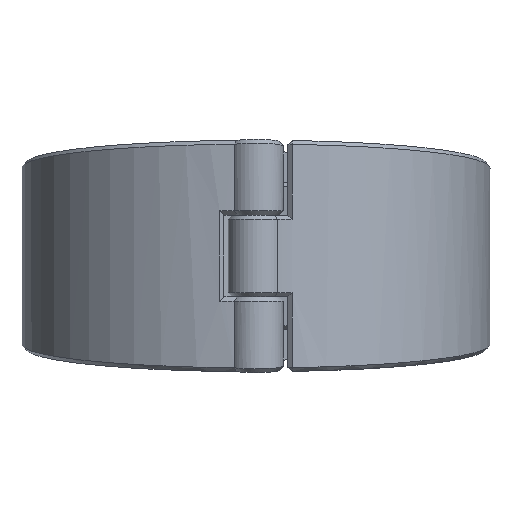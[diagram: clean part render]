
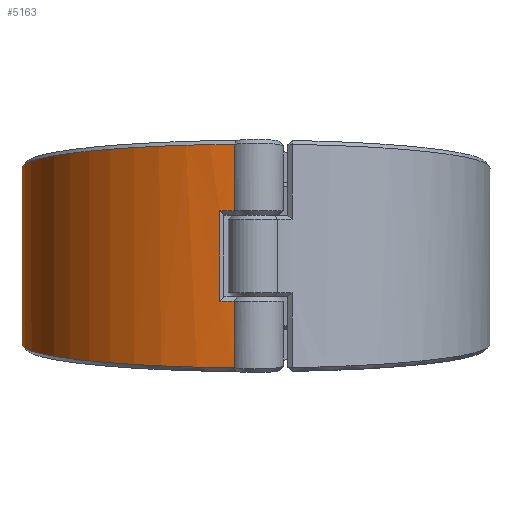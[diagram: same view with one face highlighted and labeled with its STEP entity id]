
A CAD part, front view. The second image highlights one B-rep face of the part: STEP entity #5163.
In plain terms, the highlighted cylindrical face has radius 110 mm (diameter 220 mm), a partial arc.
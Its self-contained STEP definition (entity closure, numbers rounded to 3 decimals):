
#171=CYLINDRICAL_SURFACE('',#5540,110.);
#388=FACE_OUTER_BOUND('',#730,.T.);
#730=EDGE_LOOP('',(#3521,#3522,#3523,#3524,#3525,#3526,#3527,#3528,#3529,
#3530,#3531,#3532));
#1089=B_SPLINE_CURVE_WITH_KNOTS('',3,(#7728,#7729,#7730,#7731),
 .UNSPECIFIED.,.F.,.F.,(4,4),(-0.001,0.),.UNSPECIFIED.);
#1090=B_SPLINE_CURVE_WITH_KNOTS('',3,(#7733,#7734,#7735,#7736),
 .UNSPECIFIED.,.F.,.F.,(4,4),(-3.049,-3.049),
 .UNSPECIFIED.);
#1091=B_SPLINE_CURVE_WITH_KNOTS('',3,(#7738,#7739,#7740,#7741,#7742,#7743,
#7744,#7745,#7746,#7747),.UNSPECIFIED.,.F.,.F.,(4,1,1,1,1,1,1,4),(0.317,
0.656,1.056,1.457,1.857,2.257,
2.657,3.049),.UNSPECIFIED.);
#1092=B_SPLINE_CURVE_WITH_KNOTS('',3,(#7751,#7752,#7753,#7754,#7755,#7756,
#7757,#7758,#7759,#7760),.UNSPECIFIED.,.F.,.F.,(4,1,1,1,1,1,1,4),(-3.049,
-2.657,-2.257,-1.857,-1.457,-1.056,
-0.656,-0.317),.UNSPECIFIED.);
#1093=B_SPLINE_CURVE_WITH_KNOTS('',3,(#7762,#7763,#7764,#7765),
 .UNSPECIFIED.,.F.,.F.,(4,4),(3.049,3.049),
 .UNSPECIFIED.);
#1094=B_SPLINE_CURVE_WITH_KNOTS('',3,(#7767,#7768,#7769,#7770),
 .UNSPECIFIED.,.F.,.F.,(4,4),(-0.361,-0.36),
 .UNSPECIFIED.);
#1317=LINE('',#7662,#1555);
#1323=LINE('',#7726,#1561);
#1324=LINE('',#7749,#1562);
#1325=LINE('',#7771,#1563);
#1555=VECTOR('',#6155,10.);
#1561=VECTOR('',#6201,10.);
#1562=VECTOR('',#6202,10.);
#1563=VECTOR('',#6203,10.);
#1798=CIRCLE('',#5530,110.);
#1801=CIRCLE('',#5535,110.);
#2137=VERTEX_POINT('',#7656);
#2138=VERTEX_POINT('',#7661);
#2144=VERTEX_POINT('',#7682);
#2147=VERTEX_POINT('',#7703);
#2151=VERTEX_POINT('',#7725);
#2152=VERTEX_POINT('',#7727);
#2153=VERTEX_POINT('',#7732);
#2154=VERTEX_POINT('',#7737);
#2155=VERTEX_POINT('',#7748);
#2156=VERTEX_POINT('',#7750);
#2157=VERTEX_POINT('',#7761);
#2158=VERTEX_POINT('',#7766);
#2646=EDGE_CURVE('',#2137,#2138,#1317,.T.);
#2659=EDGE_CURVE('',#2144,#2137,#1798,.T.);
#2664=EDGE_CURVE('',#2138,#2147,#1801,.T.);
#2670=EDGE_CURVE('',#2151,#2144,#1323,.T.);
#2671=EDGE_CURVE('',#2152,#2151,#1089,.T.);
#2672=EDGE_CURVE('',#2152,#2153,#1090,.T.);
#2673=EDGE_CURVE('',#2154,#2153,#1091,.T.);
#2674=EDGE_CURVE('',#2155,#2154,#1324,.T.);
#2675=EDGE_CURVE('',#2156,#2155,#1092,.T.);
#2676=EDGE_CURVE('',#2156,#2157,#1093,.T.);
#2677=EDGE_CURVE('',#2158,#2157,#1094,.T.);
#2678=EDGE_CURVE('',#2147,#2158,#1325,.T.);
#3521=ORIENTED_EDGE('',*,*,#2664,.F.);
#3522=ORIENTED_EDGE('',*,*,#2646,.F.);
#3523=ORIENTED_EDGE('',*,*,#2659,.F.);
#3524=ORIENTED_EDGE('',*,*,#2670,.F.);
#3525=ORIENTED_EDGE('',*,*,#2671,.F.);
#3526=ORIENTED_EDGE('',*,*,#2672,.T.);
#3527=ORIENTED_EDGE('',*,*,#2673,.F.);
#3528=ORIENTED_EDGE('',*,*,#2674,.F.);
#3529=ORIENTED_EDGE('',*,*,#2675,.F.);
#3530=ORIENTED_EDGE('',*,*,#2676,.T.);
#3531=ORIENTED_EDGE('',*,*,#2677,.F.);
#3532=ORIENTED_EDGE('',*,*,#2678,.F.);
#5163=ADVANCED_FACE('',(#388),#171,.T.);
#5530=AXIS2_PLACEMENT_3D('',#7698,#6177,#6178);
#5535=AXIS2_PLACEMENT_3D('',#7712,#6187,#6188);
#5540=AXIS2_PLACEMENT_3D('',#7724,#6199,#6200);
#6155=DIRECTION('',(0.,0.,-1.));
#6177=DIRECTION('center_axis',(0.,0.,-1.));
#6178=DIRECTION('ref_axis',(0.312,-0.95,0.));
#6187=DIRECTION('center_axis',(0.,0.,1.));
#6188=DIRECTION('ref_axis',(0.312,-0.95,0.));
#6199=DIRECTION('center_axis',(0.,0.,1.));
#6200=DIRECTION('ref_axis',(-0.312,0.95,0.));
#6201=DIRECTION('',(0.,0.,-1.));
#6202=DIRECTION('',(0.,0.,1.));
#6203=DIRECTION('',(0.,0.,-1.));
#7656=CARTESIAN_POINT('',(-17.029,-108.674,21.25));
#7661=CARTESIAN_POINT('',(-17.029,-108.674,-21.25));
#7662=CARTESIAN_POINT('',(-17.029,-108.674,0.));
#7682=CARTESIAN_POINT('',(-10.117,-109.534,21.25));
#7698=CARTESIAN_POINT('Origin',(0.,0.,21.25));
#7703=CARTESIAN_POINT('',(-10.117,-109.534,-21.25));
#7712=CARTESIAN_POINT('Origin',(0.,0.,-21.25));
#7724=CARTESIAN_POINT('Origin',(0.,0.,0.));
#7725=CARTESIAN_POINT('',(-10.117,-109.534,52.505));
#7726=CARTESIAN_POINT('',(-10.117,-109.534,0.));
#7727=CARTESIAN_POINT('',(-10.109,-109.535,52.511));
#7728=CARTESIAN_POINT('Ctrl Pts',(-10.109,-109.535,52.511));
#7729=CARTESIAN_POINT('Ctrl Pts',(-10.111,-109.534,52.509));
#7730=CARTESIAN_POINT('Ctrl Pts',(-10.114,-109.534,52.507));
#7731=CARTESIAN_POINT('Ctrl Pts',(-10.117,-109.534,52.505));
#7732=CARTESIAN_POINT('',(-10.117,-109.534,52.511));
#7733=CARTESIAN_POINT('Ctrl Pts',(-10.109,-109.534,52.511));
#7734=CARTESIAN_POINT('Ctrl Pts',(-10.111,-109.534,52.511));
#7735=CARTESIAN_POINT('Ctrl Pts',(-10.114,-109.534,52.511));
#7736=CARTESIAN_POINT('Ctrl Pts',(-10.117,-109.534,52.511));
#7737=CARTESIAN_POINT('',(-34.347,104.5,30.999));
#7738=CARTESIAN_POINT('Ctrl Pts',(-34.347,104.498,30.999));
#7739=CARTESIAN_POINT('Ctrl Pts',(-46.173,100.605,31.39));
#7740=CARTESIAN_POINT('Ctrl Pts',(-70.517,87.723,32.682));
#7741=CARTESIAN_POINT('Ctrl Pts',(-98.454,55.447,35.922));
#7742=CARTESIAN_POINT('Ctrl Pts',(-112.264,12.67,40.219));
#7743=CARTESIAN_POINT('Ctrl Pts',(-108.336,-32.076,44.716));
#7744=CARTESIAN_POINT('Ctrl Pts',(-87.284,-71.718,48.704));
#7745=CARTESIAN_POINT('Ctrl Pts',(-52.741,-99.838,51.535));
#7746=CARTESIAN_POINT('Ctrl Pts',(-24.398,-108.213,52.378));
#7747=CARTESIAN_POINT('Ctrl Pts',(-10.117,-109.534,52.511));
#7748=CARTESIAN_POINT('',(-34.347,104.5,-30.999));
#7749=CARTESIAN_POINT('',(-34.347,104.5,0.));
#7750=CARTESIAN_POINT('',(-10.117,-109.534,-52.511));
#7751=CARTESIAN_POINT('Ctrl Pts',(-10.117,-109.534,-52.511));
#7752=CARTESIAN_POINT('Ctrl Pts',(-24.398,-108.213,-52.378));
#7753=CARTESIAN_POINT('Ctrl Pts',(-52.736,-99.833,-51.534));
#7754=CARTESIAN_POINT('Ctrl Pts',(-87.288,-71.722,-48.705));
#7755=CARTESIAN_POINT('Ctrl Pts',(-108.335,-32.075,-44.716));
#7756=CARTESIAN_POINT('Ctrl Pts',(-112.265,12.669,-40.219));
#7757=CARTESIAN_POINT('Ctrl Pts',(-98.454,55.447,-35.922));
#7758=CARTESIAN_POINT('Ctrl Pts',(-70.517,87.723,-32.682));
#7759=CARTESIAN_POINT('Ctrl Pts',(-46.173,100.605,-31.39));
#7760=CARTESIAN_POINT('Ctrl Pts',(-34.347,104.498,-30.999));
#7761=CARTESIAN_POINT('',(-10.109,-109.535,-52.511));
#7762=CARTESIAN_POINT('Ctrl Pts',(-10.117,-109.534,-52.511));
#7763=CARTESIAN_POINT('Ctrl Pts',(-10.114,-109.534,-52.511));
#7764=CARTESIAN_POINT('Ctrl Pts',(-10.111,-109.534,-52.511));
#7765=CARTESIAN_POINT('Ctrl Pts',(-10.109,-109.534,-52.511));
#7766=CARTESIAN_POINT('',(-10.117,-109.534,-52.505));
#7767=CARTESIAN_POINT('Ctrl Pts',(-10.117,-109.533,-52.505));
#7768=CARTESIAN_POINT('Ctrl Pts',(-10.114,-109.534,-52.507));
#7769=CARTESIAN_POINT('Ctrl Pts',(-10.111,-109.534,-52.509));
#7770=CARTESIAN_POINT('Ctrl Pts',(-10.108,-109.534,-52.511));
#7771=CARTESIAN_POINT('',(-10.117,-109.534,0.));
